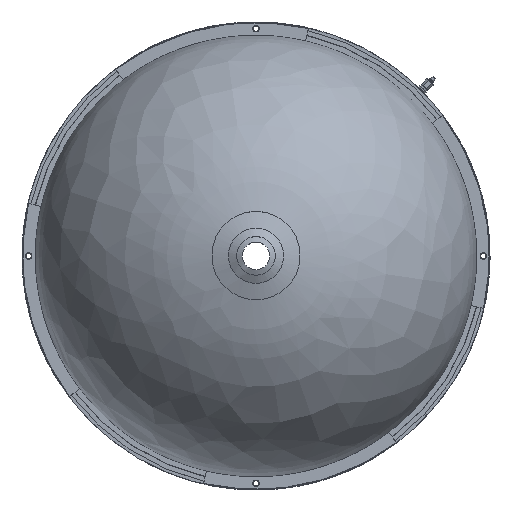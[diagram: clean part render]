
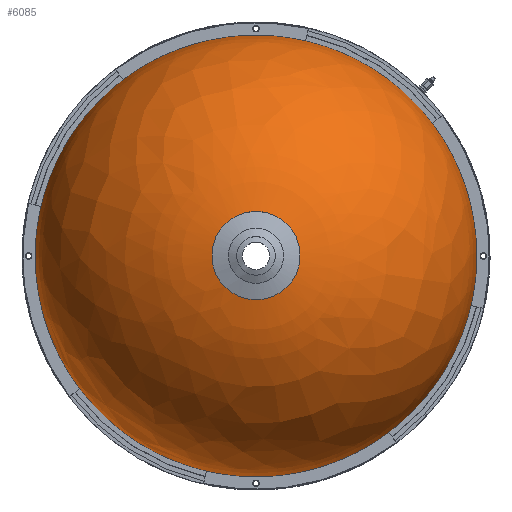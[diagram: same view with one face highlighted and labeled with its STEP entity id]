
A CAD part, top view. The second image highlights one B-rep face of the part: STEP entity #6085.
In plain terms, the highlighted free-form (B-spline) face has degree [3, 3] with [4, 7] control points.
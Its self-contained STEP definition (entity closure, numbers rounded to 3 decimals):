
#6085 = ADVANCED_FACE( '', ( #13084, #13085 ), #13086, .T. );
#13084 = FACE_OUTER_BOUND( '', #21394, .T. );
#13085 = FACE_OUTER_BOUND( '', #21395, .T. );
#13086 = ( BOUNDED_SURFACE(  )B_SPLINE_SURFACE( 3, 3, ( ( #21398, #21399, #21400, #21401, #21402, #21403, #21404 ), ( #21405, #21406, #21407, #21408, #21409, #21410, #21411 ), ( #21412, #21413, #21414, #21415, #21416, #21417, #21418 ), ( #21419, #21420, #21421, #21422, #21423, #21424, #21425 ) ), .UNSPECIFIED., .F., .T., .F. )B_SPLINE_SURFACE_WITH_KNOTS( ( 4, 4 ), ( 4, 3, 4 ), ( 0., 6.283 ), ( 0.04, 0.705, 1.369 ), .UNSPECIFIED. )GEOMETRIC_REPRESENTATION_ITEM(  )RATIONAL_B_SPLINE_SURFACE( ( ( 1., 0.333, 0.333, 1., 0.333, 0.333, 1. ), ( 0.858, 0.286, 0.286, 0.858, 0.286, 0.286, 0.858 ), ( 0.858, 0.286, 0.286, 0.858, 0.286, 0.286, 0.858 ), ( 1., 0.333, 0.333, 1., 0.333, 0.333, 1. ) ) )REPRESENTATION_ITEM( '' )SURFACE(  ) );
#21394 = EDGE_LOOP( '', ( #39109 ) );
#21395 = EDGE_LOOP( '', ( #39110 ) );
#21398 = CARTESIAN_POINT( '', ( 0., 0., 40. ) );
#21399 = CARTESIAN_POINT( '', ( 0., 80., 40. ) );
#21400 = CARTESIAN_POINT( '', ( 0., 80., -40. ) );
#21401 = CARTESIAN_POINT( '', ( 0., 0., -40. ) );
#21402 = CARTESIAN_POINT( '', ( 0., -80., -40. ) );
#21403 = CARTESIAN_POINT( '', ( 0., -80., 40. ) );
#21404 = CARTESIAN_POINT( '', ( 0., 0., 40. ) );
#21405 = CARTESIAN_POINT( '', ( 19.17, 0., 133.933 ) );
#21406 = CARTESIAN_POINT( '', ( 19.17, 267.866, 133.933 ) );
#21407 = CARTESIAN_POINT( '', ( 19.17, 267.866, -133.933 ) );
#21408 = CARTESIAN_POINT( '', ( 19.17, 0., -133.933 ) );
#21409 = CARTESIAN_POINT( '', ( 19.17, -267.866, -133.933 ) );
#21410 = CARTESIAN_POINT( '', ( 19.17, -267.866, 133.933 ) );
#21411 = CARTESIAN_POINT( '', ( 19.17, 0., 133.933 ) );
#21412 = CARTESIAN_POINT( '', ( 92.207, 0., 196.034 ) );
#21413 = CARTESIAN_POINT( '', ( 92.207, 392.068, 196.034 ) );
#21414 = CARTESIAN_POINT( '', ( 92.207, 392.068, -196.034 ) );
#21415 = CARTESIAN_POINT( '', ( 92.207, 0., -196.034 ) );
#21416 = CARTESIAN_POINT( '', ( 92.207, -392.068, -196.034 ) );
#21417 = CARTESIAN_POINT( '', ( 92.207, -392.068, 196.034 ) );
#21418 = CARTESIAN_POINT( '', ( 92.207, 0., 196.034 ) );
#21419 = CARTESIAN_POINT( '', ( 188., 0., 199.85 ) );
#21420 = CARTESIAN_POINT( '', ( 188., 399.7, 199.85 ) );
#21421 = CARTESIAN_POINT( '', ( 188., 399.7, -199.85 ) );
#21422 = CARTESIAN_POINT( '', ( 188., 0., -199.85 ) );
#21423 = CARTESIAN_POINT( '', ( 188., -399.7, -199.85 ) );
#21424 = CARTESIAN_POINT( '', ( 188., -399.7, 199.85 ) );
#21425 = CARTESIAN_POINT( '', ( 188., 0., 199.85 ) );
#39109 = ORIENTED_EDGE( '', *, *, #52871, .T. );
#39110 = ORIENTED_EDGE( '', *, *, #54324, .F. );
#52871 = EDGE_CURVE( '', #64816, #64816, #64817, .T. );
#54324 = EDGE_CURVE( '', #67085, #67085, #67086, .T. );
#64816 = VERTEX_POINT( '', #82486 );
#64817 = CIRCLE( '', #82487, 199.85 );
#67085 = VERTEX_POINT( '', #86197 );
#67086 = CIRCLE( '', #86198, 40. );
#82486 = CARTESIAN_POINT( '', ( 188., 199.85, 0. ) );
#82487 = AXIS2_PLACEMENT_3D( '', #101250, #101251, #101252 );
#86197 = CARTESIAN_POINT( '', ( 0., 40., 0. ) );
#86198 = AXIS2_PLACEMENT_3D( '', #102697, #102698, #102699 );
#101250 = CARTESIAN_POINT( '', ( 188., 0., 0. ) );
#101251 = DIRECTION( '', ( -1., 0., 0. ) );
#101252 = DIRECTION( '', ( 0., 1., 0. ) );
#102697 = CARTESIAN_POINT( '', ( 0., 0., 0. ) );
#102698 = DIRECTION( '', ( -1., 0., 0. ) );
#102699 = DIRECTION( '', ( 0., 1., 0. ) );
